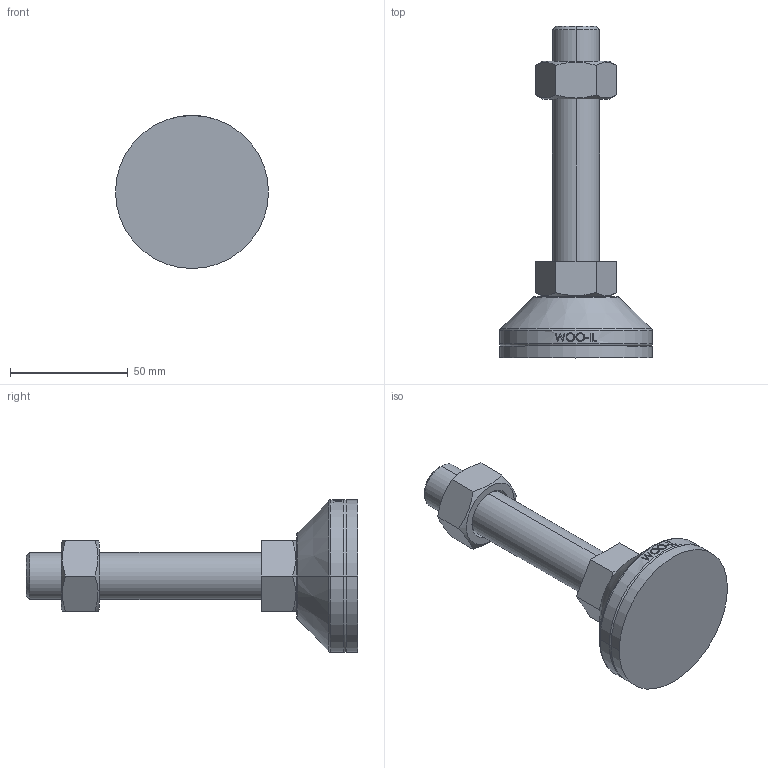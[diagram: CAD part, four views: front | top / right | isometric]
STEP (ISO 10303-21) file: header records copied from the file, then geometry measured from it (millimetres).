
FILE_DESCRIPTION (( 'STEP AP214' ), '1' );
FILE_NAME ('NHNR65-M20-100.step', '2021-01-25T06:18:05', ( '' ), ( '' ), 'SwSTEP 2.0', 'SolidWorks 2019', '' );
FILE_SCHEMA (( 'AUTOMOTIVE_DESIGN' ));
Length unit declared in the file: millimetre
Products named in the file (2): NHNR65-M20-100
Bounding box: 65 x 141 x 65 mm (x, y, z)
Volume: 118110.7 mm3; surface area: 29496.8 mm2
Topology: 4 solids, 4 shells, 105 faces, 243 edges, 156 vertices
Faces by surface type: plane 49, cylinder 18, bspline 16, cone 14, torus 8
Entity records: 4407 total; most frequent: CARTESIAN_POINT 2070, ORIENTED_EDGE 486, DIRECTION 429, EDGE_CURVE 243, AXIS2_PLACEMENT_3D 165, VERTEX_POINT 156, EDGE_LOOP 117, ADVANCED_FACE 105
